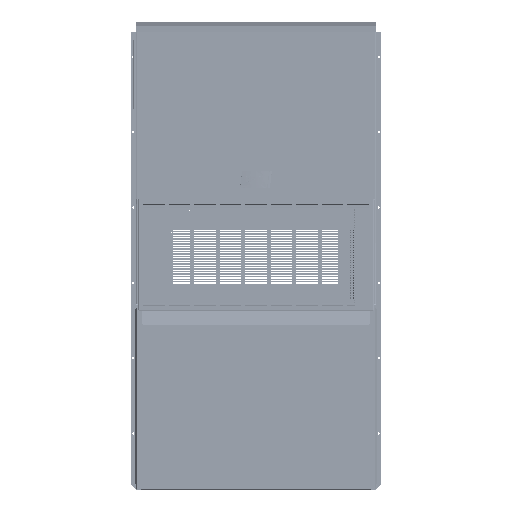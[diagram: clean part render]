
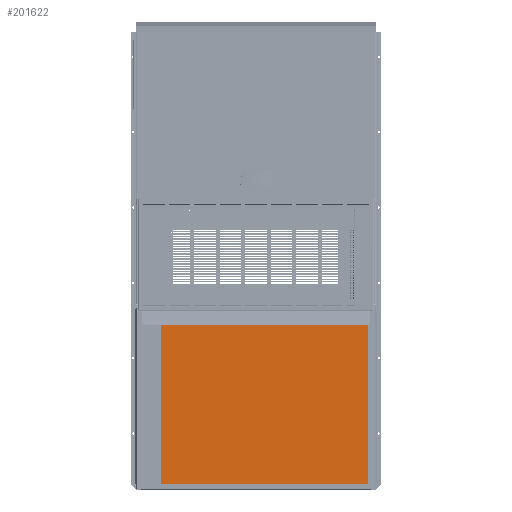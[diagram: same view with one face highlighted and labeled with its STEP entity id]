
A CAD part, top view. The second image highlights one B-rep face of the part: STEP entity #201622.
In plain terms, the highlighted planar face has unit normal (0, 0, 1).
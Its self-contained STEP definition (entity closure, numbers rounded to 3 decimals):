
#22845 = VECTOR ( 'NONE', #216926, 39.37 ) ;
#30741 = EDGE_CURVE ( 'NONE', #45019, #51475, #265324, .T. ) ;
#32973 = DIRECTION ( 'NONE',  ( 0., -1., 0. ) ) ;
#33610 = EDGE_CURVE ( 'NONE', #51475, #386908, #57830, .T. ) ;
#45019 = VERTEX_POINT ( 'NONE', #425430 ) ;
#51475 = VERTEX_POINT ( 'NONE', #379490 ) ;
#57830 = LINE ( 'NONE', #157020, #444890 ) ;
#58905 = ORIENTED_EDGE ( 'NONE', *, *, #30741, .T. ) ;
#68897 = CARTESIAN_POINT ( 'NONE',  ( -13.282, -24.3, 9.224 ) ) ;
#69296 = FACE_OUTER_BOUND ( 'NONE', #80660, .T. ) ;
#71602 = ORIENTED_EDGE ( 'NONE', *, *, #84529, .T. ) ;
#71950 = VECTOR ( 'NONE', #32973, 39.37 ) ;
#80660 = EDGE_LOOP ( 'NONE', ( #158997, #71602, #113562, #58905 ) ) ;
#84529 = EDGE_CURVE ( 'NONE', #386908, #240806, #331446, .T. ) ;
#113562 = ORIENTED_EDGE ( 'NONE', *, *, #176906, .T. ) ;
#118253 = DIRECTION ( 'NONE',  ( 1., 0., 0. ) ) ;
#146478 = DIRECTION ( 'NONE',  ( -1., 0., 0. ) ) ;
#154585 = CARTESIAN_POINT ( 'NONE',  ( -13.282, -24.3, 9.224 ) ) ;
#157020 = CARTESIAN_POINT ( 'NONE',  ( -13.282, -52.198, 9.224 ) ) ;
#158997 = ORIENTED_EDGE ( 'NONE', *, *, #33610, .T. ) ;
#166012 = CARTESIAN_POINT ( 'NONE',  ( 19.644, -52.198, 9.224 ) ) ;
#173563 = PLANE ( 'NONE',  #318228 ) ;
#176906 = EDGE_CURVE ( 'NONE', #240806, #45019, #228392, .T. ) ;
#201622 = ADVANCED_FACE ( 'NONE', ( #69296 ), #173563, .T. ) ;
#212489 = DIRECTION ( 'NONE',  ( 0., 0., 1. ) ) ;
#216926 = DIRECTION ( 'NONE',  ( 0., 1., 0. ) ) ;
#228392 = LINE ( 'NONE', #68897, #422126 ) ;
#240806 = VERTEX_POINT ( 'NONE', #365848 ) ;
#265324 = LINE ( 'NONE', #154585, #71950 ) ;
#318228 = AXIS2_PLACEMENT_3D ( 'NONE', #444178, #212489, #482982 ) ;
#331446 = LINE ( 'NONE', #370967, #22845 ) ;
#365848 = CARTESIAN_POINT ( 'NONE',  ( 19.644, -24.3, 9.224 ) ) ;
#370967 = CARTESIAN_POINT ( 'NONE',  ( 19.644, -24.3, 9.224 ) ) ;
#379490 = CARTESIAN_POINT ( 'NONE',  ( -13.282, -52.198, 9.224 ) ) ;
#386908 = VERTEX_POINT ( 'NONE', #166012 ) ;
#422126 = VECTOR ( 'NONE', #146478, 39.37 ) ;
#425430 = CARTESIAN_POINT ( 'NONE',  ( -13.282, -24.3, 9.224 ) ) ;
#444178 = CARTESIAN_POINT ( 'NONE',  ( -13.282, -24.3, 9.224 ) ) ;
#444890 = VECTOR ( 'NONE', #118253, 39.37 ) ;
#482982 = DIRECTION ( 'NONE',  ( 0., -1., 0. ) ) ;
